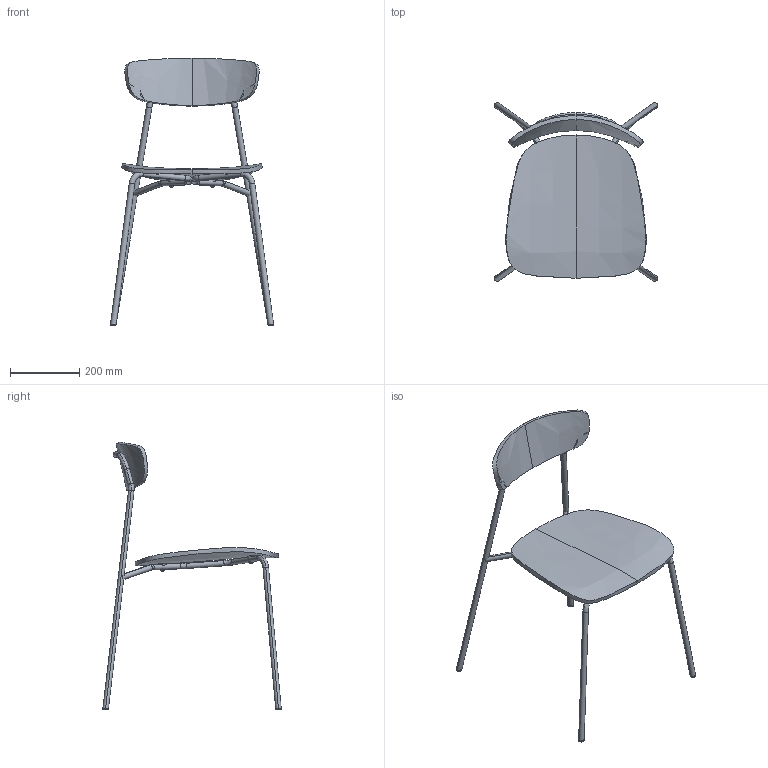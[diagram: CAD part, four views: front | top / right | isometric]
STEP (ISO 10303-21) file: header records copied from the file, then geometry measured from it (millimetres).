
FILE_DESCRIPTION(/* description */ (''),/* implementation_level */ '2;1');
FILE_NAME(/* name */ 'Trivi 126W',/* time_stamp */ '2022-01-20T11:23:27+01:00',/* author */ (''),/* organization */ (''),/* preprocessor_version */ 'ST-DEVELOPER v16.5',/* originating_system */ 'Rhino 7.14',/* authorisation */ '');
FILE_SCHEMA (('CONFIG_CONTROL_DESIGN'));
Length unit declared in the file: millimetre
Products named in the file (1): Document
Bounding box: 472.22 x 516.08 x 772.73 mm (x, y, z)
Volume: 2197893.4 mm3; surface area: 600323.4 mm2
Topology: 12 solids, 19 shells, 170 faces, 357 edges, 220 vertices
Faces by surface type: plane 62, bspline 56, cylinder 52
Entity records: 6554 total; most frequent: CARTESIAN_POINT 4118, ORIENTED_EDGE 684, EDGE_CURVE 354, VERTEX_POINT 214, B_SPLINE_CURVE_WITH_KNOTS 177, EDGE_LOOP 174, ADVANCED_FACE 170, FACE_OUTER_BOUND 170
